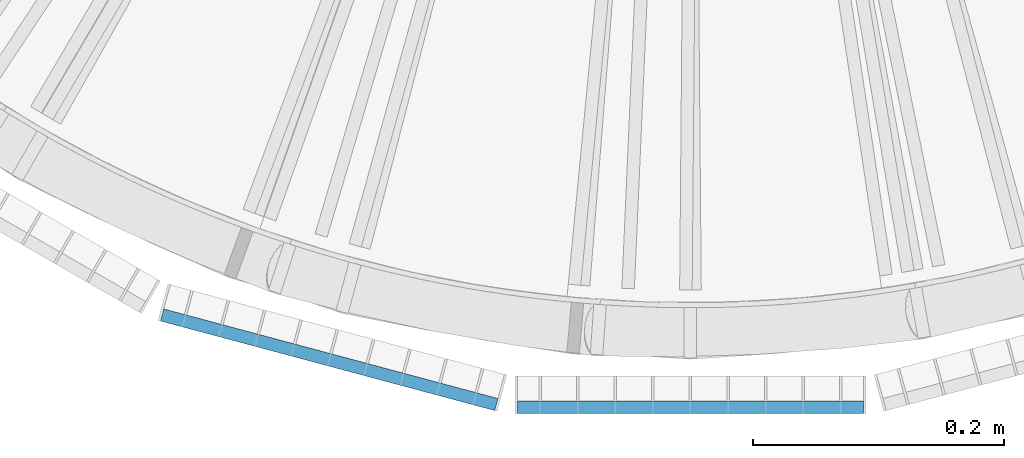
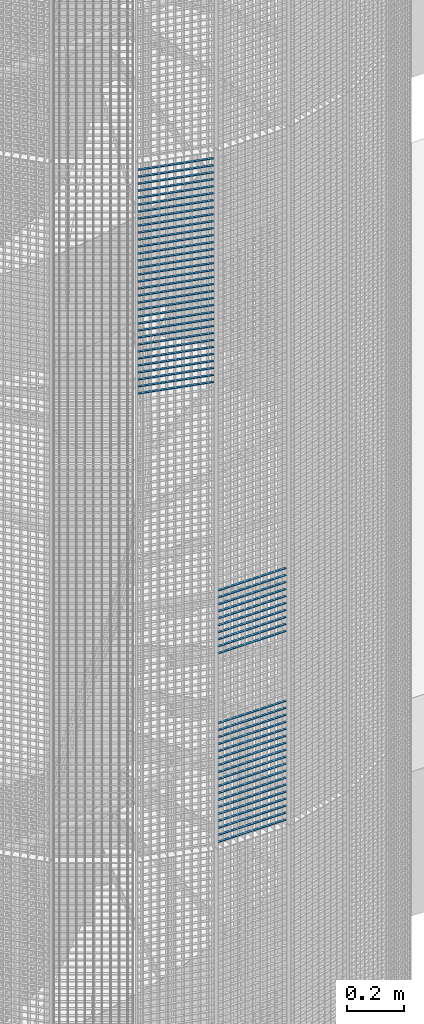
# One storey, part 151 of 1183: 61 beams, 2 elements without a shape of their own.
"""IFC2X3 building model written with IfcOpenShell, lengths in millimetres."""

from ifc_helpers import new_model, si_unit, frame, origin_with_axes, origin_2d_with_axis, place, context, subcontext, project, spatial, rectangle, extrude, material, type_object, element, aggregate, save


model = new_model("IFC2X3")

# Units and contexts
model_context = context("Model", 3, precision=1e-05, world=origin_with_axes())
body_context = subcontext(model_context, "Body", "Model", "MODEL_VIEW")
ifc_project = project(units=[si_unit("LENGTHUNIT", "METRE", prefix="MILLI"), si_unit("AREAUNIT", "SQUARE_METRE"), si_unit("VOLUMEUNIT", "CUBIC_METRE"), si_unit("MASSUNIT", "GRAM", prefix="KILO"), si_unit("TIMEUNIT", "SECOND"), si_unit("PLANEANGLEUNIT", "RADIAN"), si_unit("SOLIDANGLEUNIT", "STERADIAN"), si_unit("THERMODYNAMICTEMPERATUREUNIT", "DEGREE_CELSIUS"), si_unit("LUMINOUSINTENSITYUNIT", "LUMEN")], contexts=[model_context])

# Site, building, storey
site_placement = place(None, origin_with_axes())
site = spatial("IfcSite", under=ifc_project, at=site_placement, Name="Undefined", CompositionType="ELEMENT")
building_placement = place(site_placement, origin_with_axes())
building = spatial("IfcBuilding", under=site, at=building_placement, Name="Undefined", CompositionType="ELEMENT")
storey_placement = place(building_placement, origin_with_axes())
storey = spatial("IfcBuildingStorey", under=building, at=storey_placement, Name="Undefined", CompositionType="ELEMENT", Elevation=0.0)

# Assembly, beams
assembly_1_placement = place(storey_placement, origin_with_axes())
assembly_1 = element("IfcElementAssembly", 1, at=assembly_1_placement, inside=storey, Name="BORDURE", AssemblyPlace="NOTDEFINED", PredefinedType="NOTDEFINED")
ifc_material = material(Name="STEEL/S235JR")
beam_type = type_object("IfcBeamType", Name="PL2*10", PredefinedType="NOTDEFINED")
beam_1_placement = place(assembly_1_placement, frame((-137.996003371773, -1113.47999999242, 9540.0), z_axis=(0.0, -1.0, 0.0), x_axis=(1.0, 0.0, 0.0)))
beam_1 = element("IfcBeam", 2, at=beam_1_placement, type_object=beam_type, material=ifc_material, Name="ENTRETOISE", context=body_context, shape_type="SweptSolid", body=[
    extrude(rectangle(XDim=2.0, YDim=10.0, at=origin_2d_with_axis()), frame((275.999999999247, 9.09494701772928e-13, 1.53210777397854e-14), z_axis=(-1.0, 0.0, 0.0), x_axis=(0.0, -1.0, 0.0)), (0.0, 0.0, 1.0), 276.0),
])
beam_2_placement = place(assembly_1_placement, frame((-137.996003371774, -1113.47999999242, 9840.0), z_axis=(0.0, -1.0, 0.0), x_axis=(1.0, 0.0, 0.0)))
beam_2 = element("IfcBeam", 3, at=beam_2_placement, type_object=beam_type, material=ifc_material, Name="ENTRETOISE", context=body_context, shape_type="SweptSolid", body=[
    extrude(rectangle(XDim=2.0, YDim=10.0, at=origin_2d_with_axis()), frame((275.999999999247, 9.09494701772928e-13, 1.53210777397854e-14), z_axis=(-1.0, 0.0, 0.0), x_axis=(0.0, -1.0, 0.0)), (0.0, 0.0, 1.0), 276.0),
])
beam_3_placement = place(assembly_1_placement, frame((-137.996003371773, -1113.47999999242, 9510.0), z_axis=(0.0, -1.0, 0.0), x_axis=(1.0, 0.0, 0.0)))
beam_3 = element("IfcBeam", 4, at=beam_3_placement, type_object=beam_type, material=ifc_material, Name="ENTRETOISE", context=body_context, shape_type="SweptSolid", body=[
    extrude(rectangle(XDim=2.0, YDim=10.0, at=origin_2d_with_axis()), frame((275.999999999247, 9.09494701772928e-13, 1.53210777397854e-14), z_axis=(-1.0, 0.0, 0.0), x_axis=(0.0, -1.0, 0.0)), (0.0, 0.0, 1.0), 276.0),
])
beam_4_placement = place(assembly_1_placement, frame((-137.996003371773, -1113.47999999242, 9480.0), z_axis=(0.0, -1.0, 0.0), x_axis=(1.0, 0.0, 0.0)))
beam_4 = element("IfcBeam", 5, at=beam_4_placement, type_object=beam_type, material=ifc_material, Name="ENTRETOISE", context=body_context, shape_type="SweptSolid", body=[
    extrude(rectangle(XDim=2.0, YDim=10.0, at=origin_2d_with_axis()), frame((275.999999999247, 9.09494701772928e-13, 1.53210777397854e-14), z_axis=(-1.0, 0.0, 0.0), x_axis=(0.0, -1.0, 0.0)), (0.0, 0.0, 1.0), 276.0),
])
beam_5_placement = place(assembly_1_placement, frame((-137.996003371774, -1113.47999999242, 9870.0), z_axis=(0.0, -1.0, 0.0), x_axis=(1.0, 0.0, 0.0)))
beam_5 = element("IfcBeam", 6, at=beam_5_placement, type_object=beam_type, material=ifc_material, Name="ENTRETOISE", context=body_context, shape_type="SweptSolid", body=[
    extrude(rectangle(XDim=2.0, YDim=10.0, at=origin_2d_with_axis()), frame((275.999999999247, 9.09494701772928e-13, 1.53210777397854e-14), z_axis=(-1.0, 0.0, 0.0), x_axis=(0.0, -1.0, 0.0)), (0.0, 0.0, 1.0), 276.0),
])
beam_6_placement = place(assembly_1_placement, frame((-137.996003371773, -1113.47999999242, 9450.0), z_axis=(0.0, -1.0, 0.0), x_axis=(1.0, 0.0, 0.0)))
beam_6 = element("IfcBeam", 7, at=beam_6_placement, type_object=beam_type, material=ifc_material, Name="ENTRETOISE", context=body_context, shape_type="SweptSolid", body=[
    extrude(rectangle(XDim=2.0, YDim=10.0, at=origin_2d_with_axis()), frame((275.999999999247, 9.09494701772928e-13, 1.53210777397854e-14), z_axis=(-1.0, 0.0, 0.0), x_axis=(0.0, -1.0, 0.0)), (0.0, 0.0, 1.0), 276.0),
])
beam_7_placement = place(assembly_1_placement, frame((-137.996003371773, -1113.47999999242, 9420.0), z_axis=(0.0, -1.0, 0.0), x_axis=(1.0, 0.0, 0.0)))
beam_7 = element("IfcBeam", 8, at=beam_7_placement, type_object=beam_type, material=ifc_material, Name="ENTRETOISE", context=body_context, shape_type="SweptSolid", body=[
    extrude(rectangle(XDim=2.0, YDim=10.0, at=origin_2d_with_axis()), frame((275.999999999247, 9.09494701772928e-13, 1.53210777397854e-14), z_axis=(-1.0, 0.0, 0.0), x_axis=(0.0, -1.0, 0.0)), (0.0, 0.0, 1.0), 276.0),
])
beam_8_placement = place(assembly_1_placement, frame((-137.996003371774, -1113.47999999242, 9900.0), z_axis=(0.0, -1.0, 0.0), x_axis=(1.0, 0.0, 0.0)))
beam_8 = element("IfcBeam", 9, at=beam_8_placement, type_object=beam_type, material=ifc_material, Name="ENTRETOISE", context=body_context, shape_type="SweptSolid", body=[
    extrude(rectangle(XDim=2.0, YDim=10.0, at=origin_2d_with_axis()), frame((275.999999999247, 9.09494701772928e-13, 1.53210777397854e-14), z_axis=(-1.0, 0.0, 0.0), x_axis=(0.0, -1.0, 0.0)), (0.0, 0.0, 1.0), 276.0),
])
beam_9_placement = place(assembly_1_placement, frame((-137.996003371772, -1113.47999999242, 9390.0), z_axis=(0.0, -1.0, 0.0), x_axis=(1.0, 0.0, 0.0)))
beam_9 = element("IfcBeam", 10, at=beam_9_placement, type_object=beam_type, material=ifc_material, Name="ENTRETOISE", context=body_context, shape_type="SweptSolid", body=[
    extrude(rectangle(XDim=2.0, YDim=10.0, at=origin_2d_with_axis()), frame((275.999999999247, 9.09494701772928e-13, 1.53210777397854e-14), z_axis=(-1.0, 0.0, 0.0), x_axis=(0.0, -1.0, 0.0)), (0.0, 0.0, 1.0), 276.0),
])
beam_10_placement = place(assembly_1_placement, frame((-137.996003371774, -1113.47999999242, 9930.0), z_axis=(0.0, -1.0, 0.0), x_axis=(1.0, 0.0, 0.0)))
beam_10 = element("IfcBeam", 11, at=beam_10_placement, type_object=beam_type, material=ifc_material, Name="ENTRETOISE", context=body_context, shape_type="SweptSolid", body=[
    extrude(rectangle(XDim=2.0, YDim=10.0, at=origin_2d_with_axis()), frame((275.999999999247, 9.09494701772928e-13, 1.53210777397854e-14), z_axis=(-1.0, 0.0, 0.0), x_axis=(0.0, -1.0, 0.0)), (0.0, 0.0, 1.0), 276.0),
])
beam_11_placement = place(assembly_1_placement, frame((-137.996003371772, -1113.47999999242, 9360.0), z_axis=(0.0, -1.0, 0.0), x_axis=(1.0, 0.0, 0.0)))
beam_11 = element("IfcBeam", 12, at=beam_11_placement, type_object=beam_type, material=ifc_material, Name="ENTRETOISE", context=body_context, shape_type="SweptSolid", body=[
    extrude(rectangle(XDim=2.0, YDim=10.0, at=origin_2d_with_axis()), frame((275.999999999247, 9.09494701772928e-13, 1.53210777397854e-14), z_axis=(-1.0, 0.0, 0.0), x_axis=(0.0, -1.0, 0.0)), (0.0, 0.0, 1.0), 276.0),
])
beam_12_placement = place(assembly_1_placement, frame((-137.996003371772, -1113.47999999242, 9330.0), z_axis=(0.0, -1.0, 0.0), x_axis=(1.0, 0.0, 0.0)))
beam_12 = element("IfcBeam", 13, at=beam_12_placement, type_object=beam_type, material=ifc_material, Name="ENTRETOISE", context=body_context, shape_type="SweptSolid", body=[
    extrude(rectangle(XDim=2.0, YDim=10.0, at=origin_2d_with_axis()), frame((275.999999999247, 9.09494701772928e-13, 1.53210777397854e-14), z_axis=(-1.0, 0.0, 0.0), x_axis=(0.0, -1.0, 0.0)), (0.0, 0.0, 1.0), 276.0),
])
beam_13_placement = place(assembly_1_placement, frame((-137.996003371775, -1113.47999999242, 9960.0), z_axis=(0.0, -1.0, 0.0), x_axis=(1.0, 0.0, 0.0)))
beam_13 = element("IfcBeam", 14, at=beam_13_placement, type_object=beam_type, material=ifc_material, Name="ENTRETOISE", context=body_context, shape_type="SweptSolid", body=[
    extrude(rectangle(XDim=2.0, YDim=10.0, at=origin_2d_with_axis()), frame((275.999999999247, 9.09494701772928e-13, 1.53210777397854e-14), z_axis=(-1.0, 0.0, 0.0), x_axis=(0.0, -1.0, 0.0)), (0.0, 0.0, 1.0), 276.0),
])
beam_14_placement = place(assembly_1_placement, frame((-137.996003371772, -1113.47999999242, 9300.0), z_axis=(0.0, -1.0, 0.0), x_axis=(1.0, 0.0, 0.0)))
beam_14 = element("IfcBeam", 15, at=beam_14_placement, type_object=beam_type, material=ifc_material, Name="ENTRETOISE", context=body_context, shape_type="SweptSolid", body=[
    extrude(rectangle(XDim=2.0, YDim=10.0, at=origin_2d_with_axis()), frame((275.999999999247, 9.09494701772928e-13, 1.53210777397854e-14), z_axis=(-1.0, 0.0, 0.0), x_axis=(0.0, -1.0, 0.0)), (0.0, 0.0, 1.0), 276.0),
])
beam_15_placement = place(assembly_1_placement, frame((-137.996003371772, -1113.47999999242, 9270.0), z_axis=(0.0, -1.0, 0.0), x_axis=(1.0, 0.0, 0.0)))
beam_15 = element("IfcBeam", 16, at=beam_15_placement, type_object=beam_type, material=ifc_material, Name="ENTRETOISE", context=body_context, shape_type="SweptSolid", body=[
    extrude(rectangle(XDim=2.0, YDim=10.0, at=origin_2d_with_axis()), frame((275.999999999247, 9.09494701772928e-13, 1.53210777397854e-14), z_axis=(-1.0, 0.0, 0.0), x_axis=(0.0, -1.0, 0.0)), (0.0, 0.0, 1.0), 276.0),
])
beam_16_placement = place(assembly_1_placement, frame((-137.996003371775, -1113.47999999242, 9990.0), z_axis=(0.0, -1.0, 0.0), x_axis=(1.0, 0.0, 0.0)))
beam_16 = element("IfcBeam", 17, at=beam_16_placement, type_object=beam_type, material=ifc_material, Name="ENTRETOISE", context=body_context, shape_type="SweptSolid", body=[
    extrude(rectangle(XDim=2.0, YDim=10.0, at=origin_2d_with_axis()), frame((275.999999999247, 9.09494701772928e-13, 1.53210777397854e-14), z_axis=(-1.0, 0.0, 0.0), x_axis=(0.0, -1.0, 0.0)), (0.0, 0.0, 1.0), 276.0),
])
beam_17_placement = place(assembly_1_placement, frame((-137.996003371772, -1113.47999999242, 9240.0), z_axis=(0.0, -1.0, 0.0), x_axis=(1.0, 0.0, 0.0)))
beam_17 = element("IfcBeam", 18, at=beam_17_placement, type_object=beam_type, material=ifc_material, Name="ENTRETOISE", context=body_context, shape_type="SweptSolid", body=[
    extrude(rectangle(XDim=2.0, YDim=10.0, at=origin_2d_with_axis()), frame((275.999999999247, 9.09494701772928e-13, 1.53210777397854e-14), z_axis=(-1.0, 0.0, 0.0), x_axis=(0.0, -1.0, 0.0)), (0.0, 0.0, 1.0), 276.0),
])
beam_18_placement = place(assembly_1_placement, frame((-137.996003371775, -1113.47999999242, 10020.0), z_axis=(0.0, -1.0, 0.0), x_axis=(1.0, 0.0, 0.0)))
beam_18 = element("IfcBeam", 19, at=beam_18_placement, type_object=beam_type, material=ifc_material, Name="ENTRETOISE", context=body_context, shape_type="SweptSolid", body=[
    extrude(rectangle(XDim=2.0, YDim=10.0, at=origin_2d_with_axis()), frame((275.999999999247, 9.09494701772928e-13, 1.53210777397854e-14), z_axis=(-1.0, 0.0, 0.0), x_axis=(0.0, -1.0, 0.0)), (0.0, 0.0, 1.0), 276.0),
])
beam_19_placement = place(assembly_1_placement, frame((-137.996003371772, -1113.47999999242, 9210.0), z_axis=(0.0, -1.0, 0.0), x_axis=(1.0, 0.0, 0.0)))
beam_19 = element("IfcBeam", 20, at=beam_19_placement, type_object=beam_type, material=ifc_material, Name="ENTRETOISE", context=body_context, shape_type="SweptSolid", body=[
    extrude(rectangle(XDim=2.0, YDim=10.0, at=origin_2d_with_axis()), frame((275.999999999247, 9.09494701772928e-13, 1.53210777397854e-14), z_axis=(-1.0, 0.0, 0.0), x_axis=(0.0, -1.0, 0.0)), (0.0, 0.0, 1.0), 276.0),
])
beam_20_placement = place(assembly_1_placement, frame((-137.996003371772, -1113.47999999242, 9180.0), z_axis=(0.0, -1.0, 0.0), x_axis=(1.0, 0.0, 0.0)))
beam_20 = element("IfcBeam", 21, at=beam_20_placement, type_object=beam_type, material=ifc_material, Name="ENTRETOISE", context=body_context, shape_type="SweptSolid", body=[
    extrude(rectangle(XDim=2.0, YDim=10.0, at=origin_2d_with_axis()), frame((275.999999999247, 9.09494701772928e-13, 1.53210777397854e-14), z_axis=(-1.0, 0.0, 0.0), x_axis=(0.0, -1.0, 0.0)), (0.0, 0.0, 1.0), 276.0),
])
beam_21_placement = place(assembly_1_placement, frame((-137.996003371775, -1113.47999999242, 10050.0), z_axis=(0.0, -1.0, 0.0), x_axis=(1.0, 0.0, 0.0)))
beam_21 = element("IfcBeam", 22, at=beam_21_placement, type_object=beam_type, material=ifc_material, Name="ENTRETOISE", context=body_context, shape_type="SweptSolid", body=[
    extrude(rectangle(XDim=2.0, YDim=10.0, at=origin_2d_with_axis()), frame((275.999999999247, 9.09494701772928e-13, 1.53210777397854e-14), z_axis=(-1.0, 0.0, 0.0), x_axis=(0.0, -1.0, 0.0)), (0.0, 0.0, 1.0), 276.0),
])
beam_22_placement = place(assembly_1_placement, frame((-137.996003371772, -1113.47999999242, 9150.0), z_axis=(0.0, -1.0, 0.0), x_axis=(1.0, 0.0, 0.0)))
beam_22 = element("IfcBeam", 23, at=beam_22_placement, type_object=beam_type, material=ifc_material, Name="ENTRETOISE", context=body_context, shape_type="SweptSolid", body=[
    extrude(rectangle(XDim=2.0, YDim=10.0, at=origin_2d_with_axis()), frame((275.999999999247, 9.09494701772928e-13, 1.53210777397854e-14), z_axis=(-1.0, 0.0, 0.0), x_axis=(0.0, -1.0, 0.0)), (0.0, 0.0, 1.0), 276.0),
])
beam_23_placement = place(assembly_1_placement, frame((-137.996003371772, -1113.47999999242, 9120.0), z_axis=(0.0, -1.0, 0.0), x_axis=(1.0, 0.0, 0.0)))
beam_23 = element("IfcBeam", 24, at=beam_23_placement, type_object=beam_type, material=ifc_material, Name="ENTRETOISE", context=body_context, shape_type="SweptSolid", body=[
    extrude(rectangle(XDim=2.0, YDim=10.0, at=origin_2d_with_axis()), frame((275.999999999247, 9.09494701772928e-13, 1.53210777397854e-14), z_axis=(-1.0, 0.0, 0.0), x_axis=(0.0, -1.0, 0.0)), (0.0, 0.0, 1.0), 276.0),
])
beam_24_placement = place(assembly_1_placement, frame((-137.996003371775, -1113.47999999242, 10080.0), z_axis=(0.0, -1.0, 0.0), x_axis=(1.0, 0.0, 0.0)))
beam_24 = element("IfcBeam", 25, at=beam_24_placement, type_object=beam_type, material=ifc_material, Name="ENTRETOISE", context=body_context, shape_type="SweptSolid", body=[
    extrude(rectangle(XDim=2.0, YDim=10.0, at=origin_2d_with_axis()), frame((275.999999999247, 9.09494701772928e-13, 1.53210777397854e-14), z_axis=(-1.0, 0.0, 0.0), x_axis=(0.0, -1.0, 0.0)), (0.0, 0.0, 1.0), 276.0),
])
beam_25_placement = place(assembly_1_placement, frame((-137.996003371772, -1113.47999999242, 9090.0), z_axis=(0.0, -1.0, 0.0), x_axis=(1.0, 0.0, 0.0)))
beam_25 = element("IfcBeam", 26, at=beam_25_placement, type_object=beam_type, material=ifc_material, Name="ENTRETOISE", context=body_context, shape_type="SweptSolid", body=[
    extrude(rectangle(XDim=2.0, YDim=10.0, at=origin_2d_with_axis()), frame((275.999999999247, 9.09494701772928e-13, 1.53210777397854e-14), z_axis=(-1.0, 0.0, 0.0), x_axis=(0.0, -1.0, 0.0)), (0.0, 0.0, 1.0), 276.0),
])
beam_26_placement = place(assembly_1_placement, frame((-137.996003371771, -1113.47999999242, 9060.0), z_axis=(0.0, -1.0, 0.0), x_axis=(1.0, 0.0, 0.0)))
beam_26 = element("IfcBeam", 27, at=beam_26_placement, type_object=beam_type, material=ifc_material, Name="ENTRETOISE", context=body_context, shape_type="SweptSolid", body=[
    extrude(rectangle(XDim=2.0, YDim=10.0, at=origin_2d_with_axis()), frame((275.999999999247, 9.09494701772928e-13, 1.53210777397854e-14), z_axis=(-1.0, 0.0, 0.0), x_axis=(0.0, -1.0, 0.0)), (0.0, 0.0, 1.0), 276.0),
])
beam_27_placement = place(assembly_1_placement, frame((-137.996003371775, -1113.47999999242, 10110.0), z_axis=(0.0, -1.0, 0.0), x_axis=(1.0, 0.0, 0.0)))
beam_27 = element("IfcBeam", 28, at=beam_27_placement, type_object=beam_type, material=ifc_material, Name="ENTRETOISE", context=body_context, shape_type="SweptSolid", body=[
    extrude(rectangle(XDim=2.0, YDim=10.0, at=origin_2d_with_axis()), frame((275.999999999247, 9.09494701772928e-13, 1.53210777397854e-14), z_axis=(-1.0, 0.0, 0.0), x_axis=(0.0, -1.0, 0.0)), (0.0, 0.0, 1.0), 276.0),
])
beam_28_placement = place(assembly_1_placement, frame((-137.99600337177, -1113.47999999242, 9030.0), z_axis=(0.0, -1.0, 0.0), x_axis=(1.0, 0.0, 0.0)))
beam_28 = element("IfcBeam", 29, at=beam_28_placement, type_object=beam_type, material=ifc_material, Name="ENTRETOISE", context=body_context, shape_type="SweptSolid", body=[
    extrude(rectangle(XDim=2.0, YDim=10.0, at=origin_2d_with_axis()), frame((275.999999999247, 9.09494701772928e-13, 1.53210777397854e-14), z_axis=(-1.0, 0.0, 0.0), x_axis=(0.0, -1.0, 0.0)), (0.0, 0.0, 1.0), 276.0),
])
aggregate(assembly_1, [beam_1, beam_2, beam_3, beam_4, beam_5, beam_6, beam_7, beam_8, beam_9, beam_10, beam_11, beam_12, beam_13, beam_14, beam_15, beam_16, beam_17, beam_18, beam_19, beam_20, beam_21, beam_22, beam_23, beam_24, beam_25, beam_26, beam_27, beam_28])

assembly_2_placement = place(storey_placement, origin_with_axes())
assembly_2 = element("IfcElementAssembly", 30, at=assembly_2_placement, inside=storey, Name="BORDURE", AssemblyPlace="NOTDEFINED", PredefinedType="NOTDEFINED")
beam_29_placement = place(assembly_2_placement, frame((-421.483733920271, -1039.82309522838, 11970.0), z_axis=(-0.258819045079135, -0.965925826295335, 0.0), x_axis=(0.965925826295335, -0.258819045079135, 0.0)))
beam_29 = element("IfcBeam", 31, at=beam_29_placement, type_object=beam_type, material=ifc_material, Name="ENTRETOISE", context=body_context, shape_type="SweptSolid", body=[
    extrude(rectangle(XDim=2.0, YDim=10.0, at=origin_2d_with_axis()), frame((275.999999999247, 9.09494701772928e-13, 1.53210777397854e-14), z_axis=(-1.0, 0.0, 0.0), x_axis=(0.0, -1.0, 0.0)), (0.0, 0.0, 1.0), 276.0),
])
beam_30_placement = place(assembly_2_placement, frame((-421.483733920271, -1039.82309522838, 11940.0), z_axis=(-0.258819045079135, -0.965925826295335, 0.0), x_axis=(0.965925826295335, -0.258819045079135, 0.0)))
beam_30 = element("IfcBeam", 32, at=beam_30_placement, type_object=beam_type, material=ifc_material, Name="ENTRETOISE", context=body_context, shape_type="SweptSolid", body=[
    extrude(rectangle(XDim=2.0, YDim=10.0, at=origin_2d_with_axis()), frame((275.999999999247, 9.09494701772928e-13, 1.53210777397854e-14), z_axis=(-1.0, 0.0, 0.0), x_axis=(0.0, -1.0, 0.0)), (0.0, 0.0, 1.0), 276.0),
])
beam_31_placement = place(assembly_2_placement, frame((-421.483733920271, -1039.82309522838, 11910.0), z_axis=(-0.258819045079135, -0.965925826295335, 0.0), x_axis=(0.965925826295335, -0.258819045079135, 0.0)))
beam_31 = element("IfcBeam", 33, at=beam_31_placement, type_object=beam_type, material=ifc_material, Name="ENTRETOISE", context=body_context, shape_type="SweptSolid", body=[
    extrude(rectangle(XDim=2.0, YDim=10.0, at=origin_2d_with_axis()), frame((275.999999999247, 9.09494701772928e-13, 1.53210777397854e-14), z_axis=(-1.0, 0.0, 0.0), x_axis=(0.0, -1.0, 0.0)), (0.0, 0.0, 1.0), 276.0),
])
beam_32_placement = place(assembly_2_placement, frame((-421.483733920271, -1039.82309522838, 11880.0), z_axis=(-0.258819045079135, -0.965925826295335, 0.0), x_axis=(0.965925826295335, -0.258819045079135, 0.0)))
beam_32 = element("IfcBeam", 34, at=beam_32_placement, type_object=beam_type, material=ifc_material, Name="ENTRETOISE", context=body_context, shape_type="SweptSolid", body=[
    extrude(rectangle(XDim=2.0, YDim=10.0, at=origin_2d_with_axis()), frame((275.999999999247, 9.09494701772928e-13, 1.53210777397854e-14), z_axis=(-1.0, 0.0, 0.0), x_axis=(0.0, -1.0, 0.0)), (0.0, 0.0, 1.0), 276.0),
])
beam_33_placement = place(assembly_2_placement, frame((-421.483733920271, -1039.82309522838, 11850.0), z_axis=(-0.258819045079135, -0.965925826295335, 0.0), x_axis=(0.965925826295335, -0.258819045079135, 0.0)))
beam_33 = element("IfcBeam", 35, at=beam_33_placement, type_object=beam_type, material=ifc_material, Name="ENTRETOISE", context=body_context, shape_type="SweptSolid", body=[
    extrude(rectangle(XDim=2.0, YDim=10.0, at=origin_2d_with_axis()), frame((275.999999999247, 9.09494701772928e-13, 1.53210777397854e-14), z_axis=(-1.0, 0.0, 0.0), x_axis=(0.0, -1.0, 0.0)), (0.0, 0.0, 1.0), 276.0),
])
beam_34_placement = place(assembly_2_placement, frame((-421.483733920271, -1039.82309522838, 11820.0), z_axis=(-0.258819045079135, -0.965925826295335, 0.0), x_axis=(0.965925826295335, -0.258819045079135, 0.0)))
beam_34 = element("IfcBeam", 36, at=beam_34_placement, type_object=beam_type, material=ifc_material, Name="ENTRETOISE", context=body_context, shape_type="SweptSolid", body=[
    extrude(rectangle(XDim=2.0, YDim=10.0, at=origin_2d_with_axis()), frame((275.999999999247, 9.09494701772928e-13, 1.53210777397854e-14), z_axis=(-1.0, 0.0, 0.0), x_axis=(0.0, -1.0, 0.0)), (0.0, 0.0, 1.0), 276.0),
])
beam_35_placement = place(assembly_2_placement, frame((-421.483733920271, -1039.82309522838, 11790.0), z_axis=(-0.258819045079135, -0.965925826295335, 0.0), x_axis=(0.965925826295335, -0.258819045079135, 0.0)))
beam_35 = element("IfcBeam", 37, at=beam_35_placement, type_object=beam_type, material=ifc_material, Name="ENTRETOISE", context=body_context, shape_type="SweptSolid", body=[
    extrude(rectangle(XDim=2.0, YDim=10.0, at=origin_2d_with_axis()), frame((275.999999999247, 9.09494701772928e-13, 1.53210777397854e-14), z_axis=(-1.0, 0.0, 0.0), x_axis=(0.0, -1.0, 0.0)), (0.0, 0.0, 1.0), 276.0),
])
beam_36_placement = place(assembly_2_placement, frame((-421.483733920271, -1039.82309522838, 11760.0), z_axis=(-0.258819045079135, -0.965925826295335, 0.0), x_axis=(0.965925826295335, -0.258819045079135, 0.0)))
beam_36 = element("IfcBeam", 38, at=beam_36_placement, type_object=beam_type, material=ifc_material, Name="ENTRETOISE", context=body_context, shape_type="SweptSolid", body=[
    extrude(rectangle(XDim=2.0, YDim=10.0, at=origin_2d_with_axis()), frame((275.999999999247, 9.09494701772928e-13, 1.53210777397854e-14), z_axis=(-1.0, 0.0, 0.0), x_axis=(0.0, -1.0, 0.0)), (0.0, 0.0, 1.0), 276.0),
])
beam_37_placement = place(assembly_2_placement, frame((-421.483733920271, -1039.82309522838, 11730.0), z_axis=(-0.258819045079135, -0.965925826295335, 0.0), x_axis=(0.965925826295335, -0.258819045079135, 0.0)))
beam_37 = element("IfcBeam", 39, at=beam_37_placement, type_object=beam_type, material=ifc_material, Name="ENTRETOISE", context=body_context, shape_type="SweptSolid", body=[
    extrude(rectangle(XDim=2.0, YDim=10.0, at=origin_2d_with_axis()), frame((275.999999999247, 9.09494701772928e-13, 1.53210777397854e-14), z_axis=(-1.0, 0.0, 0.0), x_axis=(0.0, -1.0, 0.0)), (0.0, 0.0, 1.0), 276.0),
])
beam_38_placement = place(assembly_2_placement, frame((-421.48373392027, -1039.82309522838, 11700.0), z_axis=(-0.258819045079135, -0.965925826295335, 0.0), x_axis=(0.965925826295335, -0.258819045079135, 0.0)))
beam_38 = element("IfcBeam", 40, at=beam_38_placement, type_object=beam_type, material=ifc_material, Name="ENTRETOISE", context=body_context, shape_type="SweptSolid", body=[
    extrude(rectangle(XDim=2.0, YDim=10.0, at=origin_2d_with_axis()), frame((275.999999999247, 9.09494701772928e-13, 1.53210777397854e-14), z_axis=(-1.0, 0.0, 0.0), x_axis=(0.0, -1.0, 0.0)), (0.0, 0.0, 1.0), 276.0),
])
beam_39_placement = place(assembly_2_placement, frame((-421.48373392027, -1039.82309522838, 11670.0), z_axis=(-0.258819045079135, -0.965925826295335, 0.0), x_axis=(0.965925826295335, -0.258819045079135, 0.0)))
beam_39 = element("IfcBeam", 41, at=beam_39_placement, type_object=beam_type, material=ifc_material, Name="ENTRETOISE", context=body_context, shape_type="SweptSolid", body=[
    extrude(rectangle(XDim=2.0, YDim=10.0, at=origin_2d_with_axis()), frame((275.999999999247, 9.09494701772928e-13, 1.53210777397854e-14), z_axis=(-1.0, 0.0, 0.0), x_axis=(0.0, -1.0, 0.0)), (0.0, 0.0, 1.0), 276.0),
])
beam_40_placement = place(assembly_2_placement, frame((-421.48373392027, -1039.82309522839, 11640.0), z_axis=(-0.258819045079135, -0.965925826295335, 0.0), x_axis=(0.965925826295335, -0.258819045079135, 0.0)))
beam_40 = element("IfcBeam", 42, at=beam_40_placement, type_object=beam_type, material=ifc_material, Name="ENTRETOISE", context=body_context, shape_type="SweptSolid", body=[
    extrude(rectangle(XDim=2.0, YDim=10.0, at=origin_2d_with_axis()), frame((275.999999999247, 9.09494701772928e-13, 1.53210777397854e-14), z_axis=(-1.0, 0.0, 0.0), x_axis=(0.0, -1.0, 0.0)), (0.0, 0.0, 1.0), 276.0),
])
beam_41_placement = place(assembly_2_placement, frame((-421.48373392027, -1039.82309522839, 11610.0), z_axis=(-0.258819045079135, -0.965925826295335, 0.0), x_axis=(0.965925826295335, -0.258819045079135, 0.0)))
beam_41 = element("IfcBeam", 43, at=beam_41_placement, type_object=beam_type, material=ifc_material, Name="ENTRETOISE", context=body_context, shape_type="SweptSolid", body=[
    extrude(rectangle(XDim=2.0, YDim=10.0, at=origin_2d_with_axis()), frame((275.999999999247, 9.09494701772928e-13, 1.53210777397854e-14), z_axis=(-1.0, 0.0, 0.0), x_axis=(0.0, -1.0, 0.0)), (0.0, 0.0, 1.0), 276.0),
])
beam_42_placement = place(assembly_2_placement, frame((-421.48373392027, -1039.82309522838, 11580.0), z_axis=(-0.258819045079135, -0.965925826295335, 0.0), x_axis=(0.965925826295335, -0.258819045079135, 0.0)))
beam_42 = element("IfcBeam", 44, at=beam_42_placement, type_object=beam_type, material=ifc_material, Name="ENTRETOISE", context=body_context, shape_type="SweptSolid", body=[
    extrude(rectangle(XDim=2.0, YDim=10.0, at=origin_2d_with_axis()), frame((275.999999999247, 9.09494701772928e-13, 1.53210777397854e-14), z_axis=(-1.0, 0.0, 0.0), x_axis=(0.0, -1.0, 0.0)), (0.0, 0.0, 1.0), 276.0),
])
beam_43_placement = place(assembly_2_placement, frame((-421.48373392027, -1039.82309522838, 11550.0), z_axis=(-0.258819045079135, -0.965925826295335, 0.0), x_axis=(0.965925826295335, -0.258819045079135, 0.0)))
beam_43 = element("IfcBeam", 45, at=beam_43_placement, type_object=beam_type, material=ifc_material, Name="ENTRETOISE", context=body_context, shape_type="SweptSolid", body=[
    extrude(rectangle(XDim=2.0, YDim=10.0, at=origin_2d_with_axis()), frame((275.999999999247, 9.09494701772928e-13, 1.53210777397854e-14), z_axis=(-1.0, 0.0, 0.0), x_axis=(0.0, -1.0, 0.0)), (0.0, 0.0, 1.0), 276.0),
])
beam_44_placement = place(assembly_2_placement, frame((-421.48373392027, -1039.82309522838, 11520.0), z_axis=(-0.258819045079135, -0.965925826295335, 0.0), x_axis=(0.965925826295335, -0.258819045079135, 0.0)))
beam_44 = element("IfcBeam", 46, at=beam_44_placement, type_object=beam_type, material=ifc_material, Name="ENTRETOISE", context=body_context, shape_type="SweptSolid", body=[
    extrude(rectangle(XDim=2.0, YDim=10.0, at=origin_2d_with_axis()), frame((275.999999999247, 9.09494701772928e-13, 1.53210777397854e-14), z_axis=(-1.0, 0.0, 0.0), x_axis=(0.0, -1.0, 0.0)), (0.0, 0.0, 1.0), 276.0),
])
beam_45_placement = place(assembly_2_placement, frame((-421.48373392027, -1039.82309522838, 11490.0), z_axis=(-0.258819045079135, -0.965925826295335, 0.0), x_axis=(0.965925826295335, -0.258819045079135, 0.0)))
beam_45 = element("IfcBeam", 47, at=beam_45_placement, type_object=beam_type, material=ifc_material, Name="ENTRETOISE", context=body_context, shape_type="SweptSolid", body=[
    extrude(rectangle(XDim=2.0, YDim=10.0, at=origin_2d_with_axis()), frame((275.999999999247, 9.09494701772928e-13, 1.53210777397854e-14), z_axis=(-1.0, 0.0, 0.0), x_axis=(0.0, -1.0, 0.0)), (0.0, 0.0, 1.0), 276.0),
])
beam_46_placement = place(assembly_2_placement, frame((-421.48373392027, -1039.82309522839, 11460.0), z_axis=(-0.258819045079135, -0.965925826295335, 0.0), x_axis=(0.965925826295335, -0.258819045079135, 0.0)))
beam_46 = element("IfcBeam", 48, at=beam_46_placement, type_object=beam_type, material=ifc_material, Name="ENTRETOISE", context=body_context, shape_type="SweptSolid", body=[
    extrude(rectangle(XDim=2.0, YDim=10.0, at=origin_2d_with_axis()), frame((275.999999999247, 9.09494701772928e-13, 1.53210777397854e-14), z_axis=(-1.0, 0.0, 0.0), x_axis=(0.0, -1.0, 0.0)), (0.0, 0.0, 1.0), 276.0),
])
beam_47_placement = place(assembly_2_placement, frame((-421.48373392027, -1039.82309522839, 11430.0), z_axis=(-0.258819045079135, -0.965925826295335, 0.0), x_axis=(0.965925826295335, -0.258819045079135, 0.0)))
beam_47 = element("IfcBeam", 49, at=beam_47_placement, type_object=beam_type, material=ifc_material, Name="ENTRETOISE", context=body_context, shape_type="SweptSolid", body=[
    extrude(rectangle(XDim=2.0, YDim=10.0, at=origin_2d_with_axis()), frame((275.999999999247, 9.09494701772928e-13, 1.53210777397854e-14), z_axis=(-1.0, 0.0, 0.0), x_axis=(0.0, -1.0, 0.0)), (0.0, 0.0, 1.0), 276.0),
])
beam_48_placement = place(assembly_2_placement, frame((-421.483733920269, -1039.82309522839, 11400.0), z_axis=(-0.258819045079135, -0.965925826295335, 0.0), x_axis=(0.965925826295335, -0.258819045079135, 0.0)))
beam_48 = element("IfcBeam", 50, at=beam_48_placement, type_object=beam_type, material=ifc_material, Name="ENTRETOISE", context=body_context, shape_type="SweptSolid", body=[
    extrude(rectangle(XDim=2.0, YDim=10.0, at=origin_2d_with_axis()), frame((275.999999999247, 9.09494701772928e-13, 1.53210777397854e-14), z_axis=(-1.0, 0.0, 0.0), x_axis=(0.0, -1.0, 0.0)), (0.0, 0.0, 1.0), 276.0),
])
beam_49_placement = place(assembly_2_placement, frame((-421.483733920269, -1039.82309522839, 11370.0), z_axis=(-0.258819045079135, -0.965925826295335, 0.0), x_axis=(0.965925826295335, -0.258819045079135, 0.0)))
beam_49 = element("IfcBeam", 51, at=beam_49_placement, type_object=beam_type, material=ifc_material, Name="ENTRETOISE", context=body_context, shape_type="SweptSolid", body=[
    extrude(rectangle(XDim=2.0, YDim=10.0, at=origin_2d_with_axis()), frame((275.999999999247, 9.09494701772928e-13, 1.53210777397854e-14), z_axis=(-1.0, 0.0, 0.0), x_axis=(0.0, -1.0, 0.0)), (0.0, 0.0, 1.0), 276.0),
])
beam_50_placement = place(assembly_2_placement, frame((-421.483733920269, -1039.82309522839, 11340.0), z_axis=(-0.258819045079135, -0.965925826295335, 0.0), x_axis=(0.965925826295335, -0.258819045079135, 0.0)))
beam_50 = element("IfcBeam", 52, at=beam_50_placement, type_object=beam_type, material=ifc_material, Name="ENTRETOISE", context=body_context, shape_type="SweptSolid", body=[
    extrude(rectangle(XDim=2.0, YDim=10.0, at=origin_2d_with_axis()), frame((275.999999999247, 9.09494701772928e-13, 1.53210777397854e-14), z_axis=(-1.0, 0.0, 0.0), x_axis=(0.0, -1.0, 0.0)), (0.0, 0.0, 1.0), 276.0),
])
beam_51_placement = place(assembly_2_placement, frame((-421.483733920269, -1039.82309522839, 11310.0), z_axis=(-0.258819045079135, -0.965925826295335, 0.0), x_axis=(0.965925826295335, -0.258819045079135, 0.0)))
beam_51 = element("IfcBeam", 53, at=beam_51_placement, type_object=beam_type, material=ifc_material, Name="ENTRETOISE", context=body_context, shape_type="SweptSolid", body=[
    extrude(rectangle(XDim=2.0, YDim=10.0, at=origin_2d_with_axis()), frame((275.999999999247, 9.09494701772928e-13, 1.53210777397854e-14), z_axis=(-1.0, 0.0, 0.0), x_axis=(0.0, -1.0, 0.0)), (0.0, 0.0, 1.0), 276.0),
])
beam_52_placement = place(assembly_2_placement, frame((-421.483733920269, -1039.82309522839, 11280.0), z_axis=(-0.258819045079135, -0.965925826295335, 0.0), x_axis=(0.965925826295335, -0.258819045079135, 0.0)))
beam_52 = element("IfcBeam", 54, at=beam_52_placement, type_object=beam_type, material=ifc_material, Name="ENTRETOISE", context=body_context, shape_type="SweptSolid", body=[
    extrude(rectangle(XDim=2.0, YDim=10.0, at=origin_2d_with_axis()), frame((275.999999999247, 9.09494701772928e-13, 1.53210777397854e-14), z_axis=(-1.0, 0.0, 0.0), x_axis=(0.0, -1.0, 0.0)), (0.0, 0.0, 1.0), 276.0),
])
beam_53_placement = place(assembly_2_placement, frame((-421.483733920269, -1039.82309522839, 11250.0), z_axis=(-0.258819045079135, -0.965925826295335, 0.0), x_axis=(0.965925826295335, -0.258819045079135, 0.0)))
beam_53 = element("IfcBeam", 55, at=beam_53_placement, type_object=beam_type, material=ifc_material, Name="ENTRETOISE", context=body_context, shape_type="SweptSolid", body=[
    extrude(rectangle(XDim=2.0, YDim=10.0, at=origin_2d_with_axis()), frame((275.999999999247, 9.09494701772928e-13, 1.53210777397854e-14), z_axis=(-1.0, 0.0, 0.0), x_axis=(0.0, -1.0, 0.0)), (0.0, 0.0, 1.0), 276.0),
])
beam_54_placement = place(assembly_2_placement, frame((-421.483733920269, -1039.82309522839, 11220.0), z_axis=(-0.258819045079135, -0.965925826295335, 0.0), x_axis=(0.965925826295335, -0.258819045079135, 0.0)))
beam_54 = element("IfcBeam", 56, at=beam_54_placement, type_object=beam_type, material=ifc_material, Name="ENTRETOISE", context=body_context, shape_type="SweptSolid", body=[
    extrude(rectangle(XDim=2.0, YDim=10.0, at=origin_2d_with_axis()), frame((275.999999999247, 9.09494701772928e-13, 1.53210777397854e-14), z_axis=(-1.0, 0.0, 0.0), x_axis=(0.0, -1.0, 0.0)), (0.0, 0.0, 1.0), 276.0),
])
beam_55_placement = place(assembly_2_placement, frame((-421.483733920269, -1039.82309522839, 11190.0), z_axis=(-0.258819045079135, -0.965925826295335, 0.0), x_axis=(0.965925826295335, -0.258819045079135, 0.0)))
beam_55 = element("IfcBeam", 57, at=beam_55_placement, type_object=beam_type, material=ifc_material, Name="ENTRETOISE", context=body_context, shape_type="SweptSolid", body=[
    extrude(rectangle(XDim=2.0, YDim=10.0, at=origin_2d_with_axis()), frame((275.999999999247, 9.09494701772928e-13, 1.53210777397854e-14), z_axis=(-1.0, 0.0, 0.0), x_axis=(0.0, -1.0, 0.0)), (0.0, 0.0, 1.0), 276.0),
])
beam_56_placement = place(assembly_2_placement, frame((-421.483733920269, -1039.82309522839, 11160.0), z_axis=(-0.258819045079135, -0.965925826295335, 0.0), x_axis=(0.965925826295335, -0.258819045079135, 0.0)))
beam_56 = element("IfcBeam", 58, at=beam_56_placement, type_object=beam_type, material=ifc_material, Name="ENTRETOISE", context=body_context, shape_type="SweptSolid", body=[
    extrude(rectangle(XDim=2.0, YDim=10.0, at=origin_2d_with_axis()), frame((275.999999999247, 9.09494701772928e-13, 1.53210777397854e-14), z_axis=(-1.0, 0.0, 0.0), x_axis=(0.0, -1.0, 0.0)), (0.0, 0.0, 1.0), 276.0),
])
beam_57_placement = place(assembly_2_placement, frame((-421.483733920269, -1039.82309522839, 11130.0), z_axis=(-0.258819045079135, -0.965925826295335, 0.0), x_axis=(0.965925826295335, -0.258819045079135, 0.0)))
beam_57 = element("IfcBeam", 59, at=beam_57_placement, type_object=beam_type, material=ifc_material, Name="ENTRETOISE", context=body_context, shape_type="SweptSolid", body=[
    extrude(rectangle(XDim=2.0, YDim=10.0, at=origin_2d_with_axis()), frame((275.999999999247, 9.09494701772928e-13, 1.53210777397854e-14), z_axis=(-1.0, 0.0, 0.0), x_axis=(0.0, -1.0, 0.0)), (0.0, 0.0, 1.0), 276.0),
])
beam_58_placement = place(assembly_2_placement, frame((-421.483733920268, -1039.82309522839, 11100.0), z_axis=(-0.258819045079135, -0.965925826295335, 0.0), x_axis=(0.965925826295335, -0.258819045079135, 0.0)))
beam_58 = element("IfcBeam", 60, at=beam_58_placement, type_object=beam_type, material=ifc_material, Name="ENTRETOISE", context=body_context, shape_type="SweptSolid", body=[
    extrude(rectangle(XDim=2.0, YDim=10.0, at=origin_2d_with_axis()), frame((275.999999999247, 9.09494701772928e-13, 1.53210777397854e-14), z_axis=(-1.0, 0.0, 0.0), x_axis=(0.0, -1.0, 0.0)), (0.0, 0.0, 1.0), 276.0),
])
beam_59_placement = place(assembly_2_placement, frame((-421.483733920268, -1039.82309522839, 11070.0), z_axis=(-0.258819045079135, -0.965925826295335, 0.0), x_axis=(0.965925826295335, -0.258819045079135, 0.0)))
beam_59 = element("IfcBeam", 61, at=beam_59_placement, type_object=beam_type, material=ifc_material, Name="ENTRETOISE", context=body_context, shape_type="SweptSolid", body=[
    extrude(rectangle(XDim=2.0, YDim=10.0, at=origin_2d_with_axis()), frame((275.999999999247, 9.09494701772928e-13, 1.53210777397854e-14), z_axis=(-1.0, 0.0, 0.0), x_axis=(0.0, -1.0, 0.0)), (0.0, 0.0, 1.0), 276.0),
])
beam_60_placement = place(assembly_2_placement, frame((-421.483733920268, -1039.82309522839, 11040.0), z_axis=(-0.258819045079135, -0.965925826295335, 0.0), x_axis=(0.965925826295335, -0.258819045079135, 0.0)))
beam_60 = element("IfcBeam", 62, at=beam_60_placement, type_object=beam_type, material=ifc_material, Name="ENTRETOISE", context=body_context, shape_type="SweptSolid", body=[
    extrude(rectangle(XDim=2.0, YDim=10.0, at=origin_2d_with_axis()), frame((275.999999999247, 9.09494701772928e-13, 1.53210777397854e-14), z_axis=(-1.0, 0.0, 0.0), x_axis=(0.0, -1.0, 0.0)), (0.0, 0.0, 1.0), 276.0),
])
beam_61_placement = place(assembly_2_placement, frame((-421.483733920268, -1039.82309522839, 11010.0), z_axis=(-0.258819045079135, -0.965925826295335, 0.0), x_axis=(0.965925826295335, -0.258819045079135, 0.0)))
beam_61 = element("IfcBeam", 63, at=beam_61_placement, type_object=beam_type, material=ifc_material, Name="ENTRETOISE", context=body_context, shape_type="SweptSolid", body=[
    extrude(rectangle(XDim=2.0, YDim=10.0, at=origin_2d_with_axis()), frame((275.999999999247, 9.09494701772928e-13, 1.53210777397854e-14), z_axis=(-1.0, 0.0, 0.0), x_axis=(0.0, -1.0, 0.0)), (0.0, 0.0, 1.0), 276.0),
])
aggregate(assembly_2, [beam_29, beam_30, beam_31, beam_32, beam_33, beam_34, beam_35, beam_36, beam_37, beam_38, beam_39, beam_40, beam_41, beam_42, beam_43, beam_44, beam_45, beam_46, beam_47, beam_48, beam_49, beam_50, beam_51, beam_52, beam_53, beam_54, beam_55, beam_56, beam_57, beam_58, beam_59, beam_60, beam_61])

save(model, "model.ifc")
